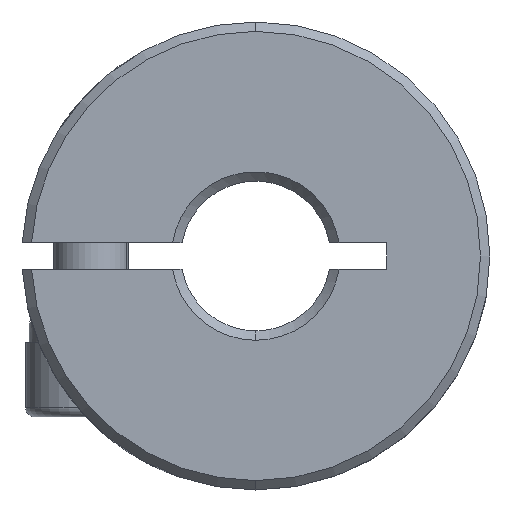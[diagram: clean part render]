
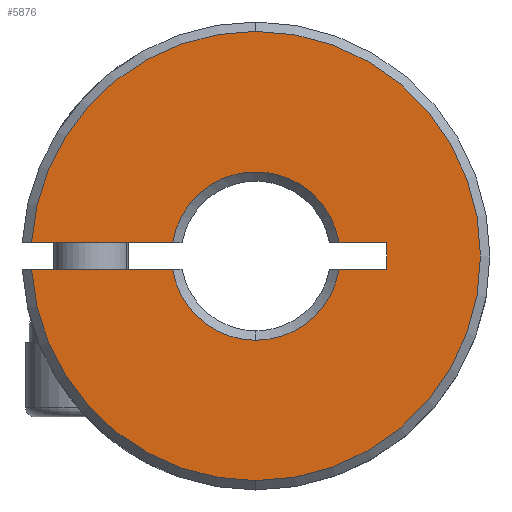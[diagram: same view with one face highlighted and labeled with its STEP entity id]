
A CAD part, front view. The second image highlights one B-rep face of the part: STEP entity #5876.
In plain terms, the highlighted planar face has unit normal (0, -1, 0).
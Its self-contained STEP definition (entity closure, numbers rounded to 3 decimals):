
#53 = CARTESIAN_POINT ( 'NONE',  ( 0., 0.25, 12. ) ) ;
#68 = EDGE_CURVE ( 'NONE', #5766, #397, #3395, .T. ) ;
#96 = CIRCLE ( 'NONE', #3491, 4.5 ) ;
#100 = DIRECTION ( 'NONE',  ( 1., 0., 0. ) ) ;
#111 = EDGE_CURVE ( 'NONE', #5059, #5895, #2089, .T. ) ;
#136 = DIRECTION ( 'NONE',  ( 0., -1., 0. ) ) ;
#141 = LINE ( 'NONE', #633, #1272 ) ;
#212 = CIRCLE ( 'NONE', #4680, 4.5 ) ;
#272 = CARTESIAN_POINT ( 'NONE',  ( -12.75, 0.25, 0.7 ) ) ;
#292 = ORIENTED_EDGE ( 'NONE', *, *, #5699, .F. ) ;
#317 = ORIENTED_EDGE ( 'NONE', *, *, #2869, .F. ) ;
#320 = PLANE ( 'NONE',  #551 ) ;
#397 = VERTEX_POINT ( 'NONE', #4984 ) ;
#528 = CARTESIAN_POINT ( 'NONE',  ( 0., 0.25, 0. ) ) ;
#539 = VECTOR ( 'NONE', #100, 1000. ) ;
#551 = AXIS2_PLACEMENT_3D ( 'NONE', #3657, #4557, #5073 ) ;
#566 = DIRECTION ( 'NONE',  ( 0., -1., 0. ) ) ;
#633 = CARTESIAN_POINT ( 'NONE',  ( -12.75, 0.25, 0.7 ) ) ;
#879 = EDGE_LOOP ( 'NONE', ( #2473, #2879, #2398, #317, #1143, #4150, #5525, #1764, #1095, #292, #1151 ) ) ;
#938 = VERTEX_POINT ( 'NONE', #4120 ) ;
#1095 = ORIENTED_EDGE ( 'NONE', *, *, #1732, .T. ) ;
#1141 = DIRECTION ( 'NONE',  ( -1., 0., 0. ) ) ;
#1143 = ORIENTED_EDGE ( 'NONE', *, *, #1321, .T. ) ;
#1151 = ORIENTED_EDGE ( 'NONE', *, *, #111, .F. ) ;
#1272 = VECTOR ( 'NONE', #5361, 1000. ) ;
#1321 = EDGE_CURVE ( 'NONE', #4483, #3023, #3449, .T. ) ;
#1373 = VECTOR ( 'NONE', #5923, 1000. ) ;
#1374 = CARTESIAN_POINT ( 'NONE',  ( 0., 0.25, -12. ) ) ;
#1375 = FACE_OUTER_BOUND ( 'NONE', #879, .T. ) ;
#1602 = CARTESIAN_POINT ( 'NONE',  ( 0., 0.25, -4.5 ) ) ;
#1658 = CARTESIAN_POINT ( 'NONE',  ( 0., 0.25, 0. ) ) ;
#1663 = VERTEX_POINT ( 'NONE', #4245 ) ;
#1732 = EDGE_CURVE ( 'NONE', #5766, #1663, #212, .T. ) ;
#1762 = CARTESIAN_POINT ( 'NONE',  ( -11.98, 0.25, -0.7 ) ) ;
#1764 = ORIENTED_EDGE ( 'NONE', *, *, #68, .F. ) ;
#1783 = VERTEX_POINT ( 'NONE', #53 ) ;
#1927 = CIRCLE ( 'NONE', #2373, 12. ) ;
#1968 = DIRECTION ( 'NONE',  ( 0., 0., 1. ) ) ;
#2089 = LINE ( 'NONE', #3981, #1373 ) ;
#2110 = AXIS2_PLACEMENT_3D ( 'NONE', #2515, #136, #2914 ) ;
#2173 = CARTESIAN_POINT ( 'NONE',  ( 0., 0.25, 0. ) ) ;
#2240 = CARTESIAN_POINT ( 'NONE',  ( 7., 0.25, 0.7 ) ) ;
#2373 = AXIS2_PLACEMENT_3D ( 'NONE', #3810, #566, #2394 ) ;
#2394 = DIRECTION ( 'NONE',  ( 0., 0., 1. ) ) ;
#2397 = DIRECTION ( 'NONE',  ( 0., 1., 0. ) ) ;
#2398 = ORIENTED_EDGE ( 'NONE', *, *, #3565, .T. ) ;
#2426 = DIRECTION ( 'NONE',  ( 0., 1., 0. ) ) ;
#2473 = ORIENTED_EDGE ( 'NONE', *, *, #2964, .F. ) ;
#2515 = CARTESIAN_POINT ( 'NONE',  ( 0., 0.25, 0. ) ) ;
#2595 = CARTESIAN_POINT ( 'NONE',  ( -12.75, 0.25, -0.7 ) ) ;
#2869 = EDGE_CURVE ( 'NONE', #4483, #938, #3017, .T. ) ;
#2879 = ORIENTED_EDGE ( 'NONE', *, *, #5777, .T. ) ;
#2914 = DIRECTION ( 'NONE',  ( 0., 0., 1. ) ) ;
#2964 = EDGE_CURVE ( 'NONE', #4501, #5059, #5050, .T. ) ;
#2999 = DIRECTION ( 'NONE',  ( 0., 0., 1. ) ) ;
#3017 = LINE ( 'NONE', #3433, #539 ) ;
#3023 = VERTEX_POINT ( 'NONE', #1374 ) ;
#3064 = DIRECTION ( 'NONE',  ( 1., 0., 0. ) ) ;
#3315 = VECTOR ( 'NONE', #3064, 1000. ) ;
#3331 = CARTESIAN_POINT ( 'NONE',  ( 0., 0.25, 0. ) ) ;
#3395 = LINE ( 'NONE', #272, #4531 ) ;
#3433 = CARTESIAN_POINT ( 'NONE',  ( -12.75, 0.25, -0.7 ) ) ;
#3449 = CIRCLE ( 'NONE', #2110, 12. ) ;
#3491 = AXIS2_PLACEMENT_3D ( 'NONE', #1658, #3985, #2999 ) ;
#3565 = EDGE_CURVE ( 'NONE', #3689, #938, #5946, .T. ) ;
#3657 = CARTESIAN_POINT ( 'NONE',  ( -500., 0.25, -13.609 ) ) ;
#3689 = VERTEX_POINT ( 'NONE', #1602 ) ;
#3797 = AXIS2_PLACEMENT_3D ( 'NONE', #3331, #2397, #1968 ) ;
#3810 = CARTESIAN_POINT ( 'NONE',  ( 0., 0.25, 0. ) ) ;
#3913 = EDGE_CURVE ( 'NONE', #1783, #397, #1927, .T. ) ;
#3981 = CARTESIAN_POINT ( 'NONE',  ( 7., 0.25, 0.7 ) ) ;
#3985 = DIRECTION ( 'NONE',  ( 0., 1., 0. ) ) ;
#4011 = CARTESIAN_POINT ( 'NONE',  ( -4.445, 0.25, 0.7 ) ) ;
#4091 = AXIS2_PLACEMENT_3D ( 'NONE', #2173, #4490, #4470 ) ;
#4120 = CARTESIAN_POINT ( 'NONE',  ( -4.445, 0.25, -0.7 ) ) ;
#4150 = ORIENTED_EDGE ( 'NONE', *, *, #5767, .T. ) ;
#4245 = CARTESIAN_POINT ( 'NONE',  ( 4.445, 0.25, 0.7 ) ) ;
#4470 = DIRECTION ( 'NONE',  ( 0., 0., 1. ) ) ;
#4483 = VERTEX_POINT ( 'NONE', #1762 ) ;
#4490 = DIRECTION ( 'NONE',  ( 0., -1., 0. ) ) ;
#4501 = VERTEX_POINT ( 'NONE', #5025 ) ;
#4531 = VECTOR ( 'NONE', #1141, 1000. ) ;
#4557 = DIRECTION ( 'NONE',  ( 0., 1., 0. ) ) ;
#4576 = CARTESIAN_POINT ( 'NONE',  ( 7., 0.25, -0.7 ) ) ;
#4680 = AXIS2_PLACEMENT_3D ( 'NONE', #528, #2426, #5765 ) ;
#4984 = CARTESIAN_POINT ( 'NONE',  ( -11.98, 0.25, 0.7 ) ) ;
#5025 = CARTESIAN_POINT ( 'NONE',  ( 4.445, 0.25, -0.7 ) ) ;
#5050 = LINE ( 'NONE', #2595, #3315 ) ;
#5059 = VERTEX_POINT ( 'NONE', #4576 ) ;
#5073 = DIRECTION ( 'NONE',  ( 0., 0., 1. ) ) ;
#5145 = CIRCLE ( 'NONE', #4091, 12. ) ;
#5361 = DIRECTION ( 'NONE',  ( -1., 0., 0. ) ) ;
#5525 = ORIENTED_EDGE ( 'NONE', *, *, #3913, .T. ) ;
#5699 = EDGE_CURVE ( 'NONE', #5895, #1663, #141, .T. ) ;
#5765 = DIRECTION ( 'NONE',  ( 0., 0., 1. ) ) ;
#5766 = VERTEX_POINT ( 'NONE', #4011 ) ;
#5767 = EDGE_CURVE ( 'NONE', #3023, #1783, #5145, .T. ) ;
#5777 = EDGE_CURVE ( 'NONE', #4501, #3689, #96, .T. ) ;
#5876 = ADVANCED_FACE ( 'NONE', ( #1375 ), #320, .F. ) ;
#5895 = VERTEX_POINT ( 'NONE', #2240 ) ;
#5923 = DIRECTION ( 'NONE',  ( 0., 0., 1. ) ) ;
#5946 = CIRCLE ( 'NONE', #3797, 4.5 ) ;
